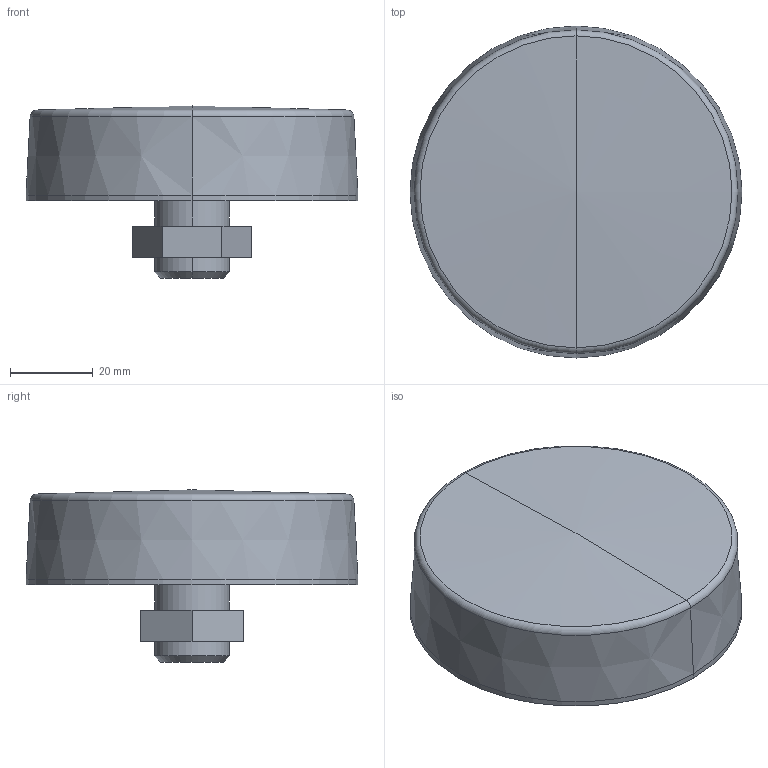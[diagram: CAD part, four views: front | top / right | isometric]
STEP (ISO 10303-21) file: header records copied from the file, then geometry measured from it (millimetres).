
FILE_DESCRIPTION (( 'STEP AP214' ), '1' );
FILE_NAME ('CMS-ANT-PUCK-GPS_EXT-3M.STEP', '2024-04-04T12:44:06', ( '' ), ( '' ), 'SwSTEP 2.0', 'SolidWorks 2022', '' );
FILE_SCHEMA (( 'AUTOMOTIVE_DESIGN' ));
Length unit declared in the file: millimetre
Products named in the file (1): CMS-ANT-PUCK-GPS_EXT-3M
Bounding box: 80 x 80 x 41.5 mm (x, y, z)
Volume: 115040.8 mm3; surface area: 16855.4 mm2
Topology: 1 solids, 1 shells, 24 faces, 52 edges, 31 vertices
Faces by surface type: plane 10, cylinder 6, cone 6, torus 2
Entity records: 848 total; most frequent: DIRECTION 120, CARTESIAN_POINT 106, ORIENTED_EDGE 100, EDGE_CURVE 50, AXIS2_PLACEMENT_3D 45, VERTEX_POINT 31, LINE 30, VECTOR 30
